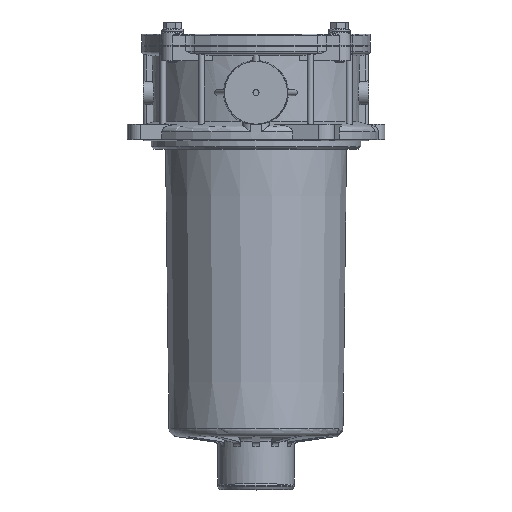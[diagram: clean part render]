
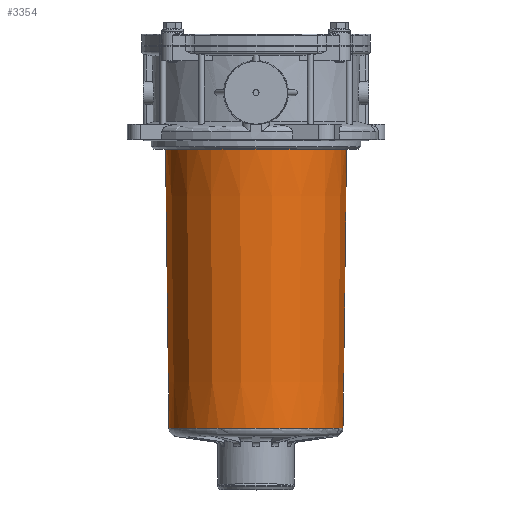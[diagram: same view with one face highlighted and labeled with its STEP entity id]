
A CAD part, top view. The second image highlights one B-rep face of the part: STEP entity #3354.
In plain terms, the highlighted conical face has half-angle 0.71 degrees and reference radius 73.432 mm.
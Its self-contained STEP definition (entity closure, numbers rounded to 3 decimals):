
#3297=CARTESIAN_POINT('',(-72.,-239.087,0.0));
#3298=VERTEX_POINT('',#3297);
#3299=CARTESIAN_POINT('',(0.,-239.087,0.0));
#3300=DIRECTION('',(0.0,1.0,0.0));
#3301=DIRECTION('',(-1.0,0.0,0.0));
#3302=AXIS2_PLACEMENT_3D('',#3299,#3300,#3301);
#3303=CIRCLE('',#3302,72.0);
#3304=EDGE_CURVE('',#3298,#3298,#3303,.T.);
#3335=CARTESIAN_POINT('',(0.,-123.543,0.0));
#3336=DIRECTION('',(0.0,1.0,0.0));
#3337=DIRECTION('',(-1.0,0.0,0.0));
#3338=AXIS2_PLACEMENT_3D('',#3335,#3336,#3337);
#3339=CONICAL_SURFACE('',#3338,73.432,0.71);
#3340=CARTESIAN_POINT('',(-74.864,-8.,0.0));
#3341=VERTEX_POINT('',#3340);
#3342=CARTESIAN_POINT('',(0.,-8.,0.0));
#3343=DIRECTION('',(0.0,1.0,0.0));
#3344=DIRECTION('',(-1.0,0.0,0.0));
#3345=AXIS2_PLACEMENT_3D('',#3342,#3343,#3344);
#3346=CIRCLE('',#3345,74.864);
#3347=EDGE_CURVE('',#3341,#3341,#3346,.T.);
#3348=ORIENTED_EDGE('',*,*,#3347,.F.);
#3349=EDGE_LOOP('',(#3348));
#3350=FACE_OUTER_BOUND('',#3349,.T.);
#3351=ORIENTED_EDGE('',*,*,#3304,.T.);
#3352=EDGE_LOOP('',(#3351));
#3353=FACE_BOUND('',#3352,.T.);
#3354=ADVANCED_FACE('',(#3350,#3353),#3339,.T.);
